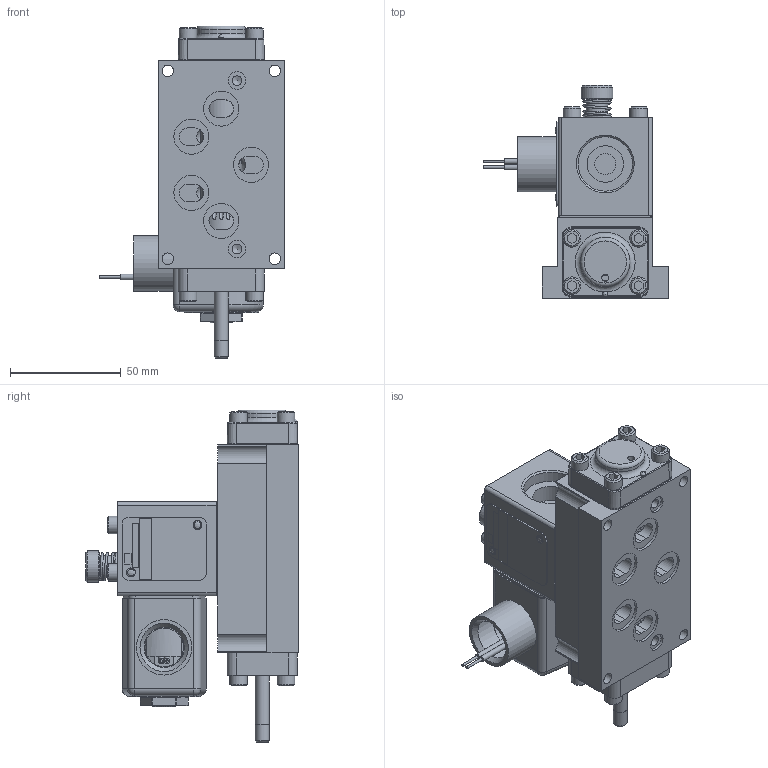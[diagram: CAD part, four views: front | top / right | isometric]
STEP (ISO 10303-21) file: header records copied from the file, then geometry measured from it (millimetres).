
FILE_DESCRIPTION(/* description */ (''),/* implementation_level */ '2;1');
FILE_NAME(/* name */ 'D:\Website Files\stp\Valves\Classic\SO\SO3POK.stp',/* time_stamp */ '2018-12-16T10:09:22-05:00',/* author */ ('RMcKenna'),/* organization */ (''),/* preprocessor_version */ 'ST-DEVELOPER v17',/* originating_system */ 'Autodesk Inventor 2018',/* authorisation */ '');
FILE_SCHEMA (('AUTOMOTIVE_DESIGN { 1 0 10303 214 3 1 1 }'));
Products named in the file (1): Part3
Bounding box: 83.63 x 96.35 x 150.18 mm (x, y, z)
Volume: 289631.4 mm3; surface area: 105912.9 mm2
Topology: 3 solids, 38 shells, 1467 faces, 3577 edges, 2312 vertices
Faces by surface type: plane 639, cylinder 344, cone 286, torus 123, bspline 68, sphere 7
Full cylindrical faces by diameter (mm): 1.168 x2, 1.727 x3, 2.07 x2, 2.261 x2, 2.35 x1, 2.54 x2, 2.778 x2, 3.048 x3, 3.175 x4, 3.302 x1, 3.683 x12, 3.912 x1, 3.962 x1, 4.366 x10, 4.369 x3, 4.826 x16, 5.105 x4, 5.156 x8, 5.159 x9, 5.537 x5, 6.35 x3, 6.629 x2, 7.671 x1, 7.925 x2, 7.938 x12, 7.95 x1, 8.153 x1, 9.144 x1, 9.462 x2, 9.474 x3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
Entity records: 49756 total; most frequent: CARTESIAN_POINT 13743, DIRECTION 7253, ORIENTED_EDGE 7096, EDGE_CURVE 3548, AXIS2_PLACEMENT_3D 2813, VERTEX_POINT 2312, EDGE_LOOP 1700, LINE 1627
